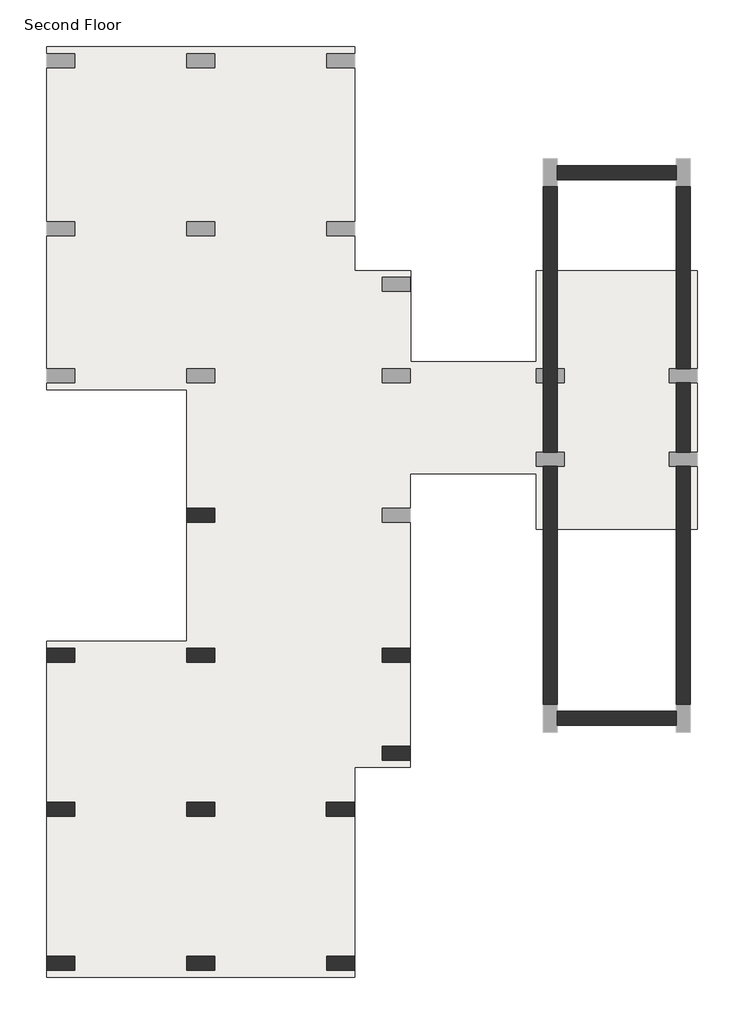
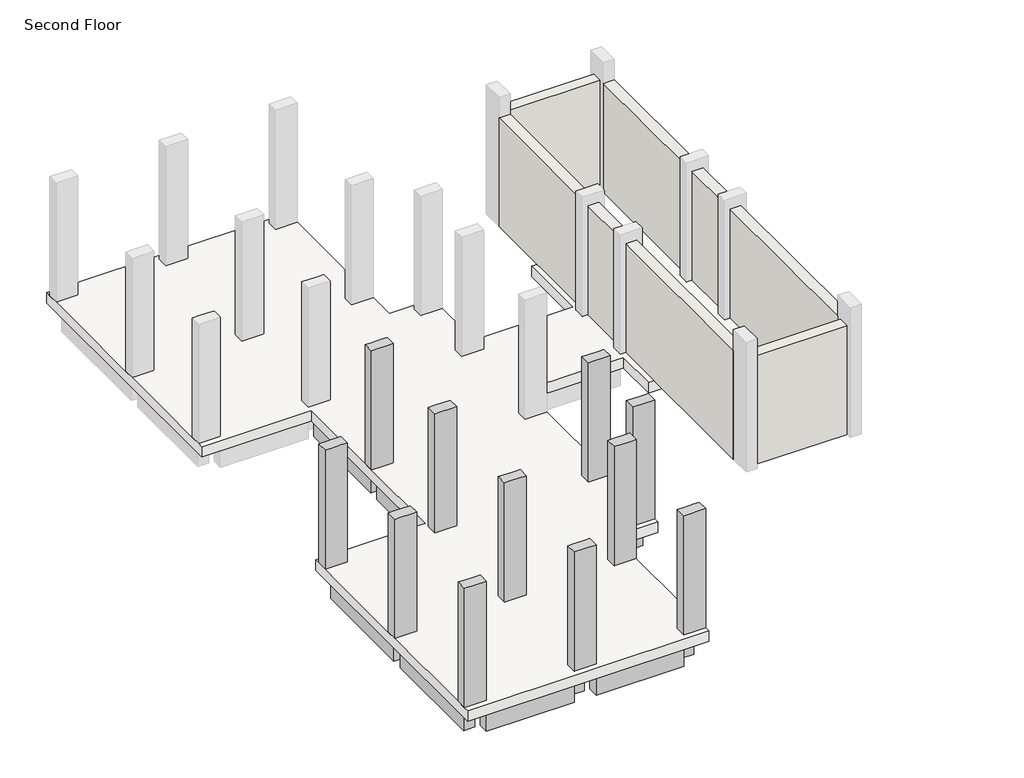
# One storey, part 1 of 2: 16 beams, 11 columns, 7 walls, 1 slab.
"""IFC4 building model written with IfcOpenShell, lengths in millimetres."""

import ifcopenshell
import ifcopenshell.guid

model = None  # the IFC model being written
_history = None  # IfcOwnerHistory: only IFC2X3 demands one
_inside = {}  # id of a spatial element -> (the spatial element, [elements in it])
_under = {}  # id of a project, library or spatial element -> (it, [spatial elements below it])
_declared = {}  # id of a project -> (the project, [libraries it declares])
_typed = {}  # id of a type object -> (the type object, [elements of that type])
_made_of = {}  # id of a material, layer set ... -> (it, [elements and type objects made of it])


def new_model(schema):
    """Start an empty IFC model of exactly this schema.

    Asked for "IFC4X3", IfcOpenShell would pick the latest addendum, in which some entities
    have other attributes; the version numbers below select the first issue.
    IFC2X3 requires an IfcOwnerHistory on every rooted entity: one is made here for all.
    """
    global model, _history
    if schema == "IFC4X3":
        model = ifcopenshell.file(schema_version=(4, 3, 0, 0))
    else:
        model = ifcopenshell.file(schema=schema)
    _inside.clear()
    _under.clear()
    _declared.clear()
    _typed.clear()
    _made_of.clear()
    _history = None
    if model.schema == "IFC2X3":
        org = make("IfcOrganization", Name="unknown")
        user = make(
            "IfcPersonAndOrganization",
            ThePerson=make("IfcPerson", FamilyName="unknown"),
            TheOrganization=org,
        )
        app = make(
            "IfcApplication",
            ApplicationDeveloper=org,
            Version="unknown",
            ApplicationFullName="unknown",
            ApplicationIdentifier="unknown",
        )
        _history = make(
            "IfcOwnerHistory",
            OwningUser=user,
            OwningApplication=app,
            ChangeAction="ADDED",
            CreationDate=0,
        )
    return model


def make(cls, **values):
    """One entity of the class cls with the attributes given. An attribute that is None is left unset."""
    return model.create_entity(
        cls, **{name: value for name, value in values.items() if value is not None}
    )


def rooted(cls, **values):
    """An entity with a GlobalId (a new one), such as an element, a storey or a relation."""
    return make(cls, GlobalId=ifcopenshell.guid.new(), OwnerHistory=_history, **values)


def si_unit(unit_type, name, prefix=None):
    """IfcSIUnit, for example si_unit("LENGTHUNIT", "METRE", prefix="MILLI")."""
    return make("IfcSIUnit", UnitType=unit_type, Prefix=prefix, Name=name)


def assignment(units):
    """IfcUnitAssignment: the units of a project."""
    return None if units is None else make("IfcUnitAssignment", Units=units)


def point(xyz):
    """IfcCartesianPoint."""
    return None if xyz is None else make("IfcCartesianPoint", Coordinates=xyz)


def direction(xyz):
    """IfcDirection."""
    return None if xyz is None else make("IfcDirection", DirectionRatios=xyz)


def frame(location, z_axis=None, x_axis=None):
    """IfcAxis2Placement3D, a coordinate frame: its origin and axes. An axis left out is left unset."""
    return make(
        "IfcAxis2Placement3D",
        Location=point(location),
        Axis=direction(z_axis),
        RefDirection=direction(x_axis),
    )


def origin():
    """The frame at (0, 0, 0) with its axes left unset."""
    return frame((0.0, 0.0, 0.0))


def place(relative_to, where):
    """IfcLocalPlacement: puts the frame where relative to a parent placement (None: the world)."""
    return make(
        "IfcLocalPlacement", PlacementRelTo=relative_to, RelativePlacement=where
    )


def context(
    kind, dimensions, precision=None, world=None, true_north=None, identifier=None
):
    """IfcGeometricRepresentationContext, for example the 3D "Model" context."""
    return make(
        "IfcGeometricRepresentationContext",
        ContextIdentifier=identifier,
        ContextType=kind,
        CoordinateSpaceDimension=dimensions,
        Precision=precision,
        WorldCoordinateSystem=world,
        TrueNorth=true_north,
    )


def project(units=None, contexts=None):
    """IfcProject with its units and contexts."""
    return rooted(
        "IfcProject",
        Name="project",
        RepresentationContexts=contexts,
        UnitsInContext=assignment(units),
    )


def spatial(cls, under=None, at=None, **own):
    """A site, building, storey or space (cls), placed at a placement, below another one or the project."""
    s = rooted(cls, ObjectPlacement=at, **own)
    if under is not None:
        _under.setdefault(under.id(), (under, []))[1].append(s)
    return s


def polyline(points):
    """IfcPolyline through the points."""
    return make("IfcPolyline", Points=[point(p) for p in points])


def outline(outer, holes=None, kind="AREA"):
    """IfcArbitraryClosedProfileDef: a profile drawn as a closed curve; with holes, ...WithVoids."""
    if holes is None:
        return make("IfcArbitraryClosedProfileDef", ProfileType=kind, OuterCurve=outer)
    return make(
        "IfcArbitraryProfileDefWithVoids",
        ProfileType=kind,
        OuterCurve=outer,
        InnerCurves=holes,
    )


def extrude(swept, where, along, depth):
    """IfcExtrudedAreaSolid: the profile swept, set in the frame where, extruded along a direction by depth."""
    return make(
        "IfcExtrudedAreaSolid",
        SweptArea=swept,
        Position=where,
        ExtrudedDirection=direction(along),
        Depth=depth,
    )


def faces_of(points, faces, orient=None, outer=None):
    """IfcFace entities. A face is a list of loops; a loop is a list of indices into points, from 0.

    orient and outer hold one flag for each loop. By default every Orientation is true, the
    first loop of a face is its IfcFaceOuterBound and the others are IfcFaceBound.
    """
    made = []
    for i, loops in enumerate(faces):
        bounds = []
        for j, loop in enumerate(loops):
            is_outer = j == 0 if outer is None else outer[i][j]
            bounds.append(
                make(
                    "IfcFaceOuterBound" if is_outer else "IfcFaceBound",
                    Bound=make("IfcPolyLoop", Polygon=[points[k] for k in loop]),
                    Orientation=True if orient is None else orient[i][j],
                )
            )
        made.append(make("IfcFace", Bounds=bounds))
    return made


def faceted_brep(points, faces, orient=None, outer=None, voids=None):
    """IfcFacetedBrep: a solid bounded by flat faces; with voids (closed shells), ...WithVoids."""
    shared = [point(p) for p in points]
    hull = make("IfcClosedShell", CfsFaces=faces_of(shared, faces, orient, outer))
    if voids is None:
        return make("IfcFacetedBrep", Outer=hull)
    return make(
        "IfcFacetedBrepWithVoids",
        Outer=hull,
        Voids=[
            make(cls, CfsFaces=faces_of(shared, fs, o, b)) for cls, fs, o, b in voids
        ],
    )


def shape(context_of_items, identifier, shape_type, items):
    """IfcShapeRepresentation: the items that make up one representation, for example the "Body"."""
    return make(
        "IfcShapeRepresentation",
        ContextOfItems=context_of_items,
        RepresentationIdentifier=identifier,
        RepresentationType=shape_type,
        Items=items,
    )


def made_of(thing, what):
    """Note that an element or type object is made of a material, layer set ...; save() writes the relation."""
    if what is not None:
        _made_of.setdefault(what.id(), (what, []))[1].append(thing)
    return thing


def element(
    cls,
    number,
    at=None,
    inside=None,
    cuts=None,
    type_object=None,
    material=None,
    context=None,
    identifier="Body",
    shape_type=None,
    held_by="IfcProductDefinitionShape",
    body=None,
    shapes=None,
    **own,
):
    """One element of the class cls, such as IfcWall. Its Tag is "e" and its number.

    at: its placement. inside: the storey or other place that contains it. cuts: it is an
    opening in that element (IfcRelVoidsElement). A single representation is given by context,
    identifier, shape_type and body (its items); several are given by shapes. held_by: the class
    of the entity that holds the representations. save() writes the other relations.
    """
    e = rooted(cls, Tag="e%d" % number, ObjectPlacement=at, **own)
    if body is not None:
        shapes = [shape(context, identifier, shape_type, body)]
    if shapes is not None:
        e.Representation = make(held_by, Representations=shapes)
    if inside is not None:
        _inside.setdefault(inside.id(), (inside, []))[1].append(e)
    if cuts is not None:
        rooted(
            "IfcRelVoidsElement", RelatingBuildingElement=cuts, RelatedOpeningElement=e
        )
    if type_object is not None:
        _typed.setdefault(type_object.id(), (type_object, []))[1].append(e)
    return made_of(e, material)


def aggregate(whole, parts):
    """IfcRelAggregates: a whole, such as a stair, and the parts it consists of."""
    return rooted("IfcRelAggregates", RelatingObject=whole, RelatedObjects=parts)


def save(model, path):
    """Write the relations noted so far, then the file.

    IfcRelAggregates (storeys below a building ...), IfcRelContainedInSpatialStructure (elements
    in a storey), IfcRelDefinesByType, IfcRelAssociatesMaterial and IfcRelDeclares: one each for
    every whole, place, type object, material and project.
    """
    for whole, parts in _under.values():
        aggregate(whole, parts)
    for where, things in _inside.values():
        rooted(
            "IfcRelContainedInSpatialStructure",
            RelatedElements=things,
            RelatingStructure=where,
        )
    for kind, things in _typed.values():
        rooted("IfcRelDefinesByType", RelatedObjects=things, RelatingType=kind)
    for what, things in _made_of.values():
        rooted("IfcRelAssociatesMaterial", RelatedObjects=things, RelatingMaterial=what)
    for by, libraries in _declared.values():
        rooted("IfcRelDeclares", RelatingContext=by, RelatedDefinitions=libraries)
    model.write(path)


model = new_model("IFC4")

# Units and contexts
model_context = context("Model", 3, world=origin())
ifc_project = project(units=[si_unit("LENGTHUNIT", "METRE", prefix="MILLI")], contexts=[model_context])

# Site, building, storey
site = spatial("IfcSite", under=ifc_project)
building = spatial("IfcBuilding", under=site)
storey = spatial("IfcBuildingStorey", under=building, Name="Second Floor", Elevation=3810.0)

# Beams
placement = place(None, origin())
element("IfcBeam", 1, ObjectType="Concrete-Rectangular Beam : 12 x 24", at=placement, inside=storey, context=model_context, shape_type="SweptSolid", body=[
    extrude(outline(polyline([(-10270.7073204, 16606.2572372), (-9965.9073204, 16606.2572372), (-9965.9073204, 13863.0572372), (-10270.7073204, 13863.0572372), (-10270.7073204, 16606.2572372)])), frame((0.0, 0.0, 2895.6), z_axis=(0.0, 0.0, 1.0), x_axis=(1.0, 0.0, 0.0)), (0.0, 0.0, 1.0), 609.6),
])
element("IfcBeam", 2, ObjectType="Concrete-Rectangular Beam : 12 x 24", at=placement, inside=storey, context=model_context, shape_type="SweptSolid", body=[
    extrude(outline(polyline([(-10270.7073204, 13558.2572372), (-9965.9073204, 13558.2572372), (-9965.9073204, 10815.0572372), (-10270.7073204, 10815.0572372), (-10270.7073204, 13558.2572372)])), frame((0.0, 0.0, 2895.6), z_axis=(0.0, 0.0, 1.0), x_axis=(1.0, 0.0, 0.0)), (0.0, 0.0, 1.0), 609.6),
])
element("IfcBeam", 3, ObjectType="Concrete-Rectangular Beam : 12 x 24", at=placement, inside=storey, context=model_context, shape_type="SweptSolid", body=[
    extrude(outline(polyline([(-9813.5073204, 10510.2572372), (-9813.5073204, 10815.0572372), (-6156.6500241, 10815.0572372), (-6156.6500241, 10510.2572372), (-9813.5073204, 10510.2572372)])), frame((0.0, 0.0, 2895.6), z_axis=(0.0, 0.0, 1.0), x_axis=(1.0, 0.0, 0.0)), (0.0, 0.0, 1.0), 609.6),
])
element("IfcBeam", 4, ObjectType="Concrete-Rectangular Beam : 12 x 24", at=placement, inside=storey, context=model_context, shape_type="SweptSolid", body=[
    extrude(outline(polyline([(-12861.5073204, 10510.2572372), (-12861.5073204, 10815.0572372), (-10423.1073204, 10815.0572372), (-10423.1073204, 10510.2572372), (-12861.5073204, 10510.2572372)])), frame((0.0, 0.0, 2895.6), z_axis=(0.0, 0.0, 1.0), x_axis=(1.0, 0.0, 0.0)), (0.0, 0.0, 1.0), 609.6),
])
element("IfcBeam", 5, ObjectType="Concrete-Rectangular Beam : 12 x 24", at=placement, inside=storey, context=model_context, shape_type="SweptSolid", body=[
    extrude(outline(polyline([(-13318.7073204, 10510.2572372), (-13013.9073204, 10510.2572372), (-13013.9073204, 7462.2572372), (-13318.7073204, 7462.2572372), (-13318.7073204, 10510.2572372)])), frame((0.0, 0.0, 2895.6), z_axis=(0.0, 0.0, 1.0), x_axis=(1.0, 0.0, 0.0)), (0.0, 0.0, 1.0), 609.6),
])
element("IfcBeam", 6, ObjectType="Concrete-Rectangular Beam : 12 x 24", at=placement, inside=storey, context=model_context, shape_type="SweptSolid", body=[
    extrude(outline(polyline([(-10270.7073204, 10510.2572372), (-9965.9073204, 10510.2572372), (-9965.9073204, 7462.2572372), (-10270.7073204, 7462.2572372), (-10270.7073204, 10510.2572372)])), frame((0.0, 0.0, 2895.6), z_axis=(0.0, 0.0, 1.0), x_axis=(1.0, 0.0, 0.0)), (0.0, 0.0, 1.0), 609.6),
])
element("IfcBeam", 7, ObjectType="Concrete-Rectangular Beam : 12 x 24", at=placement, inside=storey, context=model_context, shape_type="SweptSolid", body=[
    extrude(outline(polyline([(-6004.2500241, 10510.2572372), (-5699.4500241, 10510.2572372), (-5699.4500241, 8681.4572372), (-6004.2500241, 8681.4572372), (-6004.2500241, 10510.2572372)])), frame((0.0, 0.0, 2895.6), z_axis=(0.0, 0.0, 1.0), x_axis=(1.0, 0.0, 0.0)), (0.0, 0.0, 1.0), 609.6),
])
element("IfcBeam", 8, ObjectType="Concrete-Rectangular Beam : 12 x 24", at=placement, inside=storey, context=model_context, shape_type="Brep", body=[
    faceted_brep([(-7223.4500241, 8681.4572372, 3505.2), (-7223.4500241, 8376.6572372, 3505.2), (-6918.6500241, 8376.6572372, 3505.2), (-6156.6500241, 8376.6572372, 3505.2), (-6156.6500241, 8681.4572372, 3505.2), (-7223.4500241, 8681.4572372, 2895.6), (-6156.6500241, 8681.4572372, 2895.6), (-7223.4500241, 8376.6572372, 2895.6), (-6156.6500241, 8376.6572372, 2895.6), (-6918.6500241, 8376.6572372, 2895.6)], [[[0, 1, 2, 3, 4]], [[5, 0, 4, 6]], [[7, 5, 6, 8, 9]], [[1, 7, 9, 8, 3, 2]], [[4, 3, 8, 6]], [[1, 0, 5, 7]]]),
])
element("IfcBeam", 9, ObjectType="Concrete-Rectangular Beam : 12 x 24", at=placement, inside=storey, context=model_context, shape_type="SweptSolid", body=[
    extrude(outline(polyline([(-7223.4500241, 8376.6572372), (-6918.6500241, 8376.6572372), (-6918.6500241, 7462.2572372), (-7223.4500241, 7462.2572372), (-7223.4500241, 8376.6572372)])), frame((0.0, 0.0, 2895.6), z_axis=(0.0, 0.0, 1.0), x_axis=(1.0, 0.0, 0.0)), (0.0, 0.0, 1.0), 609.6),
])
element("IfcBeam", 10, ObjectType="Concrete-Rectangular Beam : 12 x 24", at=placement, inside=storey, context=model_context, shape_type="SweptSolid", body=[
    extrude(outline(polyline([(-7375.8500241, 7462.2572372), (-7375.8500241, 7157.4572372), (-9813.5073204, 7157.4572372), (-9813.5073204, 7462.2572372), (-7375.8500241, 7462.2572372)])), frame((0.0, 0.0, 2895.6), z_axis=(0.0, 0.0, 1.0), x_axis=(1.0, 0.0, 0.0)), (0.0, 0.0, 1.0), 609.6),
])
element("IfcBeam", 11, ObjectType="Concrete-Rectangular Beam : 12 x 24", at=placement, inside=storey, context=model_context, shape_type="SweptSolid", body=[
    extrude(outline(polyline([(-10423.1073204, 7462.2572372), (-10423.1073204, 7157.4572372), (-12861.5073204, 7157.4572372), (-12861.5073204, 7462.2572372), (-10423.1073204, 7462.2572372)])), frame((0.0, 0.0, 2895.6), z_axis=(0.0, 0.0, 1.0), x_axis=(1.0, 0.0, 0.0)), (0.0, 0.0, 1.0), 609.6),
])
element("IfcBeam", 12, ObjectType="Concrete-Rectangular Beam : 12 x 24", at=placement, inside=storey, context=model_context, shape_type="SweptSolid", body=[
    extrude(outline(polyline([(-13318.7073204, 7157.4572372), (-13013.9073204, 7157.4572372), (-13013.9073204, 4109.4572372), (-13318.7073204, 4109.4572372), (-13318.7073204, 7157.4572372)])), frame((0.0, 0.0, 2895.6), z_axis=(0.0, 0.0, 1.0), x_axis=(1.0, 0.0, 0.0)), (0.0, 0.0, 1.0), 609.6),
])
element("IfcBeam", 13, ObjectType="Concrete-Rectangular Beam : 12 x 24", at=placement, inside=storey, context=model_context, shape_type="SweptSolid", body=[
    extrude(outline(polyline([(-10270.7073204, 7157.4572372), (-9965.9073204, 7157.4572372), (-9965.9073204, 4109.4572372), (-10270.7073204, 4109.4572372), (-10270.7073204, 7157.4572372)])), frame((0.0, 0.0, 2895.6), z_axis=(0.0, 0.0, 1.0), x_axis=(1.0, 0.0, 0.0)), (0.0, 0.0, 1.0), 609.6),
])
element("IfcBeam", 14, ObjectType="Concrete-Rectangular Beam : 12 x 24", at=placement, inside=storey, context=model_context, shape_type="SweptSolid", body=[
    extrude(outline(polyline([(-7223.4500241, 7157.4572372), (-6918.6500241, 7157.4572372), (-6918.6500241, 4109.4572372), (-7223.4500241, 4109.4572372), (-7223.4500241, 7157.4572372)])), frame((0.0, 0.0, 2895.6), z_axis=(0.0, 0.0, 1.0), x_axis=(1.0, 0.0, 0.0)), (0.0, 0.0, 1.0), 609.6),
])
element("IfcBeam", 15, ObjectType="Concrete-Rectangular Beam : 12 x 24", at=placement, inside=storey, context=model_context, shape_type="SweptSolid", body=[
    extrude(outline(polyline([(-9813.5073204, 3804.6572372), (-9813.5073204, 4109.4572372), (-7375.1073204, 4109.4572372), (-7375.1073204, 3804.6572372), (-9813.5073204, 3804.6572372)])), frame((0.0, 0.0, 2895.6), z_axis=(0.0, 0.0, 1.0), x_axis=(1.0, 0.0, 0.0)), (0.0, 0.0, 1.0), 609.6),
])
element("IfcBeam", 16, ObjectType="Concrete-Rectangular Beam : 12 x 24", at=placement, inside=storey, context=model_context, shape_type="SweptSolid", body=[
    extrude(outline(polyline([(-12861.5073204, 3804.6572372), (-12861.5073204, 4109.4572372), (-10423.1073204, 4109.4572372), (-10423.1073204, 3804.6572372), (-12861.5073204, 3804.6572372)])), frame((0.0, 0.0, 2895.6), z_axis=(0.0, 0.0, 1.0), x_axis=(1.0, 0.0, 0.0)), (0.0, 0.0, 1.0), 609.6),
])

# Columns
element("IfcColumn", 17, ObjectType="Concrete-Rectangular-Column : 12 x 24", at=placement, inside=storey, context=model_context, shape_type="Brep", body=[
    faceted_brep([(-10423.1073204, 13863.0572372, 3810.0), (-9813.5073204, 13863.0572372, 3810.0), (-9813.5073204, 13558.2572372, 3810.0), (-10423.1073204, 13558.2572372, 3810.0), (-10423.1073204, 13863.0572372, 7315.2), (-10270.7073204, 13863.0572372, 7315.2), (-9965.9073204, 13863.0572372, 7315.2), (-9813.5073204, 13863.0572372, 7315.2), (-9813.5073204, 13863.0572372, 6705.6), (-9813.5073204, 13558.2572372, 7315.2), (-9813.5073204, 13558.2572372, 6705.6), (-9965.9073204, 13558.2572372, 7315.2), (-10270.7073204, 13558.2572372, 7315.2), (-10423.1073204, 13558.2572372, 7315.2)], [[[0, 1, 2, 3]], [[4, 5, 6, 7, 8, 1, 0]], [[7, 9, 10, 2, 1, 8]], [[9, 11, 12, 13, 3, 2, 10]], [[13, 4, 0, 3]], [[4, 13, 12, 11, 9, 7, 6, 5]]]),
])
element("IfcColumn", 18, ObjectType="Concrete-Rectangular-Column : 12 x 24", at=placement, inside=storey, context=model_context, shape_type="Brep", body=[
    faceted_brep([(-13471.1073204, 10815.0572372, 3810.0), (-12861.5073204, 10815.0572372, 3810.0), (-12861.5073204, 10510.2572372, 3810.0), (-13471.1073204, 10510.2572372, 3810.0), (-13471.1073204, 10815.0572372, 7315.2), (-12861.5073204, 10815.0572372, 7315.2), (-12861.5073204, 10815.0572372, 6705.6), (-12861.5073204, 10510.2572372, 7315.2), (-12861.5073204, 10510.2572372, 6705.6), (-13013.9073204, 10510.2572372, 7315.2), (-13318.7073204, 10510.2572372, 7315.2), (-13471.1073204, 10510.2572372, 7315.2)], [[[0, 1, 2, 3]], [[4, 5, 6, 1, 0]], [[5, 7, 8, 2, 1, 6]], [[7, 9, 10, 11, 3, 2, 8]], [[11, 4, 0, 3]], [[4, 11, 10, 9, 7, 5]]]),
])
element("IfcColumn", 19, ObjectType="Concrete-Rectangular-Column : 12 x 24", at=placement, inside=storey, context=model_context, shape_type="Brep", body=[
    faceted_brep([(-10423.1073204, 10815.0572372, 3810.0), (-9813.5073204, 10815.0572372, 3810.0), (-9813.5073204, 10510.2572372, 3810.0), (-10423.1073204, 10510.2572372, 3810.0), (-10423.1073204, 10815.0572372, 7315.2), (-10270.7073204, 10815.0572372, 7315.2), (-9965.9073204, 10815.0572372, 7315.2), (-9813.5073204, 10815.0572372, 7315.2), (-9813.5073204, 10815.0572372, 6705.6), (-10423.1073204, 10815.0572372, 6705.6), (-9813.5073204, 10510.2572372, 7315.2), (-9813.5073204, 10510.2572372, 6705.6), (-9965.9073204, 10510.2572372, 7315.2), (-10270.7073204, 10510.2572372, 7315.2), (-10423.1073204, 10510.2572372, 7315.2), (-10423.1073204, 10510.2572372, 6705.6)], [[[0, 1, 2, 3]], [[4, 5, 6, 7, 8, 1, 0, 9]], [[7, 10, 11, 2, 1, 8]], [[10, 12, 13, 14, 15, 3, 2, 11]], [[14, 4, 9, 0, 3, 15]], [[4, 14, 13, 12, 10, 7, 6, 5]]]),
])
element("IfcColumn", 20, ObjectType="Concrete-Rectangular-Column : 12 x 24", at=placement, inside=storey, context=model_context, shape_type="Brep", body=[
    faceted_brep([(-6156.6500241, 10815.0572372, 3810.0), (-5547.0500241, 10815.0572372, 3810.0), (-5547.0500241, 10510.2572372, 3810.0), (-6156.6500241, 10510.2572372, 3810.0), (-6156.6500241, 10815.0572372, 7315.2), (-6004.2500241, 10815.0572372, 7315.2), (-5699.4500241, 10815.0572372, 7315.2), (-5547.0500241, 10815.0572372, 7315.2), (-6156.6500241, 10815.0572372, 6705.6), (-5547.0500241, 10510.2572372, 7315.2), (-5699.4500241, 10510.2572372, 7315.2), (-6004.2500241, 10510.2572372, 7315.2), (-6156.6500241, 10510.2572372, 7315.2), (-6156.6500241, 10510.2572372, 6705.6)], [[[0, 1, 2, 3]], [[4, 5, 6, 7, 1, 0, 8]], [[7, 9, 2, 1]], [[9, 10, 11, 12, 13, 3, 2]], [[12, 4, 8, 0, 3, 13]], [[4, 12, 11, 10, 9, 7, 6, 5]]]),
])
element("IfcColumn", 21, ObjectType="Concrete-Rectangular-Column : 12 x 24", at=placement, inside=storey, context=model_context, shape_type="Brep", body=[
    faceted_brep([(-6156.6500241, 8681.4572372, 3810.0), (-5547.0500241, 8681.4572372, 3810.0), (-5547.0500241, 8376.6572372, 3810.0), (-6156.6500241, 8376.6572372, 3810.0), (-6156.6500241, 8681.4572372, 7315.2), (-6004.2500241, 8681.4572372, 7315.2), (-5699.4500241, 8681.4572372, 7315.2), (-5547.0500241, 8681.4572372, 7315.2), (-6156.6500241, 8681.4572372, 6705.6), (-5547.0500241, 8376.6572372, 7315.2), (-6156.6500241, 8376.6572372, 7315.2), (-6156.6500241, 8376.6572372, 6705.6)], [[[0, 1, 2, 3]], [[4, 5, 6, 7, 1, 0, 8]], [[7, 9, 2, 1]], [[9, 10, 11, 3, 2]], [[10, 4, 8, 0, 3, 11]], [[4, 10, 9, 7, 6, 5]]]),
])
element("IfcColumn", 22, ObjectType="Concrete-Rectangular-Column : 12 x 24", at=placement, inside=storey, context=model_context, shape_type="Brep", body=[
    faceted_brep([(-7375.8500241, 7462.2572372, 3810.0), (-6766.2500241, 7462.2572372, 3810.0), (-6766.2500241, 7157.4572372, 3810.0), (-7375.8500241, 7157.4572372, 3810.0), (-7375.8500241, 7462.2572372, 7315.2), (-7223.4500241, 7462.2572372, 7315.2), (-6918.6500241, 7462.2572372, 7315.2), (-6766.2500241, 7462.2572372, 7315.2), (-7375.8500241, 7462.2572372, 6705.6), (-6766.2500241, 7157.4572372, 7315.2), (-6918.6500241, 7157.4572372, 7315.2), (-7223.4500241, 7157.4572372, 7315.2), (-7375.8500241, 7157.4572372, 7315.2), (-7375.8500241, 7157.4572372, 6705.6)], [[[0, 1, 2, 3]], [[4, 5, 6, 7, 1, 0, 8]], [[7, 9, 2, 1]], [[9, 10, 11, 12, 13, 3, 2]], [[12, 4, 8, 0, 3, 13]], [[4, 12, 11, 10, 9, 7, 6, 5]]]),
])
element("IfcColumn", 23, ObjectType="Concrete-Rectangular-Column : 12 x 24", at=placement, inside=storey, context=model_context, shape_type="Brep", body=[
    faceted_brep([(-10423.1073204, 7462.2572372, 3810.0), (-9813.5073204, 7462.2572372, 3810.0), (-9813.5073204, 7157.4572372, 3810.0), (-10423.1073204, 7157.4572372, 3810.0), (-10423.1073204, 7462.2572372, 7315.2), (-10270.7073204, 7462.2572372, 7315.2), (-9965.9073204, 7462.2572372, 7315.2), (-9813.5073204, 7462.2572372, 7315.2), (-9813.5073204, 7462.2572372, 6705.6), (-10423.1073204, 7462.2572372, 6705.6), (-9813.5073204, 7157.4572372, 7315.2), (-9813.5073204, 7157.4572372, 6705.6), (-9965.9073204, 7157.4572372, 7315.2), (-10270.7073204, 7157.4572372, 7315.2), (-10423.1073204, 7157.4572372, 7315.2), (-10423.1073204, 7157.4572372, 6705.6)], [[[0, 1, 2, 3]], [[4, 5, 6, 7, 8, 1, 0, 9]], [[7, 10, 11, 2, 1, 8]], [[10, 12, 13, 14, 15, 3, 2, 11]], [[14, 4, 9, 0, 3, 15]], [[4, 14, 13, 12, 10, 7, 6, 5]]]),
])
element("IfcColumn", 24, ObjectType="Concrete-Rectangular-Column : 12 x 24", at=placement, inside=storey, context=model_context, shape_type="Brep", body=[
    faceted_brep([(-13471.1073204, 7462.2572372, 3810.0), (-12861.5073204, 7462.2572372, 3810.0), (-12861.5073204, 7157.4572372, 3810.0), (-13471.1073204, 7157.4572372, 3810.0), (-13471.1073204, 7462.2572372, 7315.2), (-13318.7073204, 7462.2572372, 7315.2), (-13013.9073204, 7462.2572372, 7315.2), (-12861.5073204, 7462.2572372, 7315.2), (-12861.5073204, 7462.2572372, 6705.6), (-12861.5073204, 7157.4572372, 7315.2), (-12861.5073204, 7157.4572372, 6705.6), (-13013.9073204, 7157.4572372, 7315.2), (-13318.7073204, 7157.4572372, 7315.2), (-13471.1073204, 7157.4572372, 7315.2)], [[[0, 1, 2, 3]], [[4, 5, 6, 7, 8, 1, 0]], [[7, 9, 10, 2, 1, 8]], [[9, 11, 12, 13, 3, 2, 10]], [[13, 4, 0, 3]], [[4, 13, 12, 11, 9, 7, 6, 5]]]),
])
element("IfcColumn", 25, ObjectType="Concrete-Rectangular-Column : 12 x 24", at=placement, inside=storey, context=model_context, shape_type="Brep", body=[
    faceted_brep([(-13471.1073204, 4109.4572372, 3810.0), (-12861.5073204, 4109.4572372, 3810.0), (-12861.5073204, 3804.6572372, 3810.0), (-13471.1073204, 3804.6572372, 3810.0), (-13471.1073204, 4109.4572372, 7315.2), (-13318.7073204, 4109.4572372, 7315.2), (-13013.9073204, 4109.4572372, 7315.2), (-12861.5073204, 4109.4572372, 7315.2), (-12861.5073204, 4109.4572372, 6705.6), (-12861.5073204, 3804.6572372, 7315.2), (-12861.5073204, 3804.6572372, 6705.6), (-13471.1073204, 3804.6572372, 7315.2)], [[[0, 1, 2, 3]], [[4, 5, 6, 7, 8, 1, 0]], [[7, 9, 10, 2, 1, 8]], [[9, 11, 3, 2, 10]], [[11, 4, 0, 3]], [[4, 11, 9, 7, 6, 5]]]),
])
element("IfcColumn", 26, ObjectType="Concrete-Rectangular-Column : 12 x 24", at=placement, inside=storey, context=model_context, shape_type="Brep", body=[
    faceted_brep([(-10423.1073204, 4109.4572372, 3810.0), (-9813.5073204, 4109.4572372, 3810.0), (-9813.5073204, 3804.6572372, 3810.0), (-10423.1073204, 3804.6572372, 3810.0), (-10423.1073204, 4109.4572372, 7315.2), (-10270.7073204, 4109.4572372, 7315.2), (-9965.9073204, 4109.4572372, 7315.2), (-9813.5073204, 4109.4572372, 7315.2), (-9813.5073204, 4109.4572372, 6705.6), (-10423.1073204, 4109.4572372, 6705.6), (-9813.5073204, 3804.6572372, 7315.2), (-9813.5073204, 3804.6572372, 6705.6), (-10423.1073204, 3804.6572372, 7315.2), (-10423.1073204, 3804.6572372, 6705.6)], [[[0, 1, 2, 3]], [[4, 5, 6, 7, 8, 1, 0, 9]], [[7, 10, 11, 2, 1, 8]], [[10, 12, 13, 3, 2, 11]], [[12, 4, 9, 0, 3, 13]], [[4, 12, 10, 7, 6, 5]]]),
])
element("IfcColumn", 27, ObjectType="Concrete-Rectangular-Column : 12 x 24", at=placement, inside=storey, context=model_context, shape_type="Brep", body=[
    faceted_brep([(-7375.1073204, 4109.4572372, 3810.0), (-6765.5073204, 4109.4572372, 3810.0), (-6765.5073204, 3804.6572372, 3810.0), (-7375.1073204, 3804.6572372, 3810.0), (-7375.1073204, 4109.4572372, 7315.2), (-7223.4500241, 4109.4572372, 7315.2), (-6918.6500241, 4109.4572372, 7315.2), (-6765.5073204, 4109.4572372, 7315.2), (-7375.1073204, 4109.4572372, 6705.6), (-6765.5073204, 3804.6572372, 7315.2), (-7375.1073204, 3804.6572372, 7315.2), (-7375.1073204, 3804.6572372, 6705.6)], [[[0, 1, 2, 3]], [[4, 5, 6, 7, 1, 0, 8]], [[7, 9, 2, 1]], [[9, 10, 11, 3, 2]], [[10, 4, 8, 0, 3, 11]], [[4, 10, 9, 7, 6, 5]]]),
])

# Slab
element("IfcSlab", 28, ObjectType="Generic - 12\"", at=placement, inside=storey, context=model_context, shape_type="Brep", body=[
    faceted_brep([(-6765.5073204, 23921.4572372, 3505.2), (-6765.5073204, 23769.0572372, 3505.2), (-6765.5073204, 23464.2572372, 3505.2), (-6765.5073204, 20111.4572372, 3505.2), (-6765.5073204, 19806.6572372, 3505.2), (-6765.5073204, 19044.6572372, 3505.2), (-5546.3073204, 19044.6572372, 3505.2), (-5546.3073204, 17063.4572372, 3505.2), (-2803.8500241, 17063.4572372, 3505.2), (-2803.8500241, 19044.6572372, 3505.2), (-2651.4500241, 19044.6572372, 3505.2), (-2346.6500241, 19044.6572372, 3505.2), (699.5860546, 19044.6572372, 3505.2), (699.5860546, 16911.0572372, 3505.2), (699.5860546, 16606.2572372, 3505.2), (699.5860546, 15082.2572372, 3505.2), (699.5860546, 14777.4572372, 3505.2), (699.5860546, 13405.8572372, 3505.2), (547.1860546, 13405.8572372, 3505.2), (242.3860546, 13405.8572372, 3505.2), (-2803.8500241, 13405.8572372, 3505.2), (-2803.8500241, 14625.0572372, 3505.2), (-5547.0500241, 14625.0572372, 3505.2), (-5547.0500241, 13863.0572372, 3505.2), (-5547.0500241, 13558.2572372, 3505.2), (-5547.0500241, 10815.0572372, 3505.2), (-5547.0500241, 10510.2572372, 3505.2), (-5547.0500241, 8681.4572372, 3505.2), (-5547.0500241, 8376.6572372, 3505.2), (-5547.0500241, 8224.2572372, 3505.2), (-6765.5073204, 8224.2572372, 3505.2), (-6765.5073204, 4109.4572372, 3505.2), (-6765.5073204, 3804.6572372, 3505.2), (-6765.5073204, 3652.2572372, 3505.2), (-13471.1073204, 3652.2572372, 3505.2), (-13471.1073204, 3804.6572372, 3505.2), (-13471.1073204, 4109.4572372, 3505.2), (-13471.1073204, 7157.4572372, 3505.2), (-13471.1073204, 7462.2572372, 3505.2), (-13471.1073204, 10510.2572372, 3505.2), (-13471.1073204, 10815.0572372, 3505.2), (-13471.1073204, 10967.4572372, 3505.2), (-10423.1073204, 10967.4572372, 3505.2), (-10423.1073204, 13558.2572372, 3505.2), (-10423.1073204, 13863.0572372, 3505.2), (-10423.1073204, 16453.8572372, 3505.2), (-13471.1073204, 16453.8572372, 3505.2), (-13471.1073204, 16606.2572372, 3505.2), (-13471.1073204, 16911.0572372, 3505.2), (-13471.1073204, 19806.6572372, 3505.2), (-13471.1073204, 20111.4572372, 3505.2), (-13471.1073204, 23464.2572372, 3505.2), (-13471.1073204, 23769.0572372, 3505.2), (-13471.1073204, 23921.4572372, 3505.2), (-6765.5073204, 23921.4572372, 3810.0), (-13471.1073204, 23921.4572372, 3810.0), (-13471.1073204, 23769.0572372, 3810.0), (-13471.1073204, 23464.2572372, 3810.0), (-13471.1073204, 20111.4572372, 3810.0), (-13471.1073204, 19806.6572372, 3810.0), (-13471.1073204, 16911.0572372, 3810.0), (-13471.1073204, 16606.2572372, 3810.0), (-13471.1073204, 16453.8572372, 3810.0), (-10423.1073204, 16453.8572372, 3810.0), (-10423.1073204, 13863.0572372, 3810.0), (-10423.1073204, 13558.2572372, 3810.0), (-10423.1073204, 10967.4572372, 3810.0), (-13471.1073204, 10967.4572372, 3810.0), (-13471.1073204, 10815.0572372, 3810.0), (-13471.1073204, 10510.2572372, 3810.0), (-13471.1073204, 7462.2572372, 3810.0), (-13471.1073204, 7157.4572372, 3810.0), (-13471.1073204, 4109.4572372, 3810.0), (-13471.1073204, 3804.6572372, 3810.0), (-13471.1073204, 3652.2572372, 3810.0), (-6765.5073204, 3652.2572372, 3810.0), (-6765.5073204, 3804.6572372, 3810.0), (-6765.5073204, 4109.4572372, 3810.0), (-6765.5073204, 8224.2572372, 3810.0), (-5547.0500241, 8224.2572372, 3810.0), (-5547.0500241, 8376.6572372, 3810.0), (-5547.0500241, 8681.4572372, 3810.0), (-5547.0500241, 10510.2572372, 3810.0), (-5547.0500241, 10815.0572372, 3810.0), (-5547.0500241, 13558.2572372, 3810.0), (-5547.0500241, 13863.0572372, 3810.0), (-5547.0500241, 14625.0572372, 3810.0), (-2803.8500241, 14625.0572372, 3810.0), (-2803.8500241, 13405.8572372, 3810.0), (242.3860546, 13405.8572372, 3810.0), (547.1860546, 13405.8572372, 3810.0), (699.5860546, 13405.8572372, 3810.0), (699.5860546, 14777.4572372, 3810.0), (699.5860546, 15082.2572372, 3810.0), (699.5860546, 16606.2572372, 3810.0), (699.5860546, 16911.0572372, 3810.0), (699.5860546, 19044.6572372, 3810.0), (-2346.6500241, 19044.6572372, 3810.0), (-2651.4500241, 19044.6572372, 3810.0), (-2803.8500241, 19044.6572372, 3810.0), (-2803.8500241, 17063.4572372, 3810.0), (-5546.3073204, 17063.4572372, 3810.0), (-5546.3073204, 19044.6572372, 3810.0), (-6765.5073204, 19044.6572372, 3810.0), (-6765.5073204, 19806.6572372, 3810.0), (-6765.5073204, 20111.4572372, 3810.0), (-6765.5073204, 23464.2572372, 3810.0), (-6765.5073204, 23769.0572372, 3810.0)], [[[0, 1, 2, 3, 4, 5, 6, 7, 8, 9, 10, 11, 12, 13, 14, 15, 16, 17, 18, 19, 20, 21, 22, 23, 24, 25, 26, 27, 28, 29, 30, 31, 32, 33, 34, 35, 36, 37, 38, 39, 40, 41, 42, 43, 44, 45, 46, 47, 48, 49, 50, 51, 52, 53]], [[54, 55, 56, 57, 58, 59, 60, 61, 62, 63, 64, 65, 66, 67, 68, 69, 70, 71, 72, 73, 74, 75, 76, 77, 78, 79, 80, 81, 82, 83, 84, 85, 86, 87, 88, 89, 90, 91, 92, 93, 94, 95, 96, 97, 98, 99, 100, 101, 102, 103, 104, 105, 106, 107]], [[5, 4, 3, 2, 1, 0, 54, 107, 106, 105, 104, 103]], [[6, 5, 103, 102]], [[7, 6, 102, 101]], [[8, 7, 101, 100]], [[9, 8, 100, 99]], [[12, 11, 10, 9, 99, 98, 97, 96]], [[17, 16, 15, 14, 13, 12, 96, 95, 94, 93, 92, 91]], [[20, 19, 18, 17, 91, 90, 89, 88]], [[21, 20, 88, 87]], [[22, 21, 87, 86]], [[29, 28, 27, 26, 25, 24, 23, 22, 86, 85, 84, 83, 82, 81, 80, 79]], [[30, 29, 79, 78]], [[33, 32, 31, 30, 78, 77, 76, 75]], [[34, 33, 75, 74]], [[41, 40, 39, 38, 37, 36, 35, 34, 74, 73, 72, 71, 70, 69, 68, 67]], [[42, 41, 67, 66]], [[45, 44, 43, 42, 66, 65, 64, 63]], [[46, 45, 63, 62]], [[53, 52, 51, 50, 49, 48, 47, 46, 62, 61, 60, 59, 58, 57, 56, 55]], [[0, 53, 55, 54]]]),
])

# Walls
element("IfcWall", 29, ObjectType="Core-Shaft - 12\" Concrete", at=placement, inside=storey, context=model_context, shape_type="SweptSolid", body=[
    extrude(outline(polyline([(242.3860546, 21025.8572372), (-2346.6500241, 21025.8572372), (-2346.6500241, 21330.6572372), (242.3860546, 21330.6572372), (242.3860546, 21025.8572372)])), frame((0.0, 0.0, 3810.0), z_axis=(0.0, 0.0, 1.0), x_axis=(1.0, 0.0, 0.0)), (0.0, 0.0, 1.0), 3200.4),
])
element("IfcWall", 30, ObjectType="Core-Shaft - 12\" Concrete", at=placement, inside=storey, context=model_context, shape_type="SweptSolid", body=[
    extrude(outline(polyline([(242.3860546, 16911.0572372), (242.3860546, 20873.4572372), (547.1860546, 20873.4572372), (547.1860546, 16911.0572372), (242.3860546, 16911.0572372)])), frame((0.0, 0.0, 3810.0), z_axis=(0.0, 0.0, 1.0), x_axis=(1.0, 0.0, 0.0)), (0.0, 0.0, 1.0), 3200.4),
])
element("IfcWall", 31, ObjectType="Core-Shaft - 12\" Concrete", at=placement, inside=storey, context=model_context, shape_type="SweptSolid", body=[
    extrude(outline(polyline([(242.3860546, 15082.2572372), (242.3860546, 16606.2572372), (547.1860546, 16606.2572372), (547.1860546, 15082.2572372), (242.3860546, 15082.2572372)])), frame((0.0, 0.0, 3810.0), z_axis=(0.0, 0.0, 1.0), x_axis=(1.0, 0.0, 0.0)), (0.0, 0.0, 1.0), 3200.4),
])
element("IfcWall", 32, ObjectType="Core-Shaft - 12\" Concrete", at=placement, inside=storey, context=model_context, shape_type="SweptSolid", body=[
    extrude(outline(polyline([(242.3860546, 9595.8572372), (242.3860546, 14777.4572372), (547.1860546, 14777.4572372), (547.1860546, 9595.8572372), (242.3860546, 9595.8572372)])), frame((0.0, 0.0, 3810.0), z_axis=(0.0, 0.0, 1.0), x_axis=(1.0, 0.0, 0.0)), (0.0, 0.0, 1.0), 3200.4),
])
element("IfcWall", 33, ObjectType="Core-Shaft - 12\" Concrete", at=placement, inside=storey, context=model_context, shape_type="SweptSolid", body=[
    extrude(outline(polyline([(-2346.6500241, 9443.4572372), (242.3860546, 9443.4572372), (242.3860546, 9138.6572372), (-2346.6500241, 9138.6572372), (-2346.6500241, 9443.4572372)])), frame((0.0, 0.0, 3810.0), z_axis=(0.0, 0.0, 1.0), x_axis=(1.0, 0.0, 0.0)), (0.0, 0.0, 1.0), 3200.4),
])
element("IfcWall", 34, ObjectType="Core-Shaft - 12\" Concrete", at=placement, inside=storey, context=model_context, shape_type="SweptSolid", body=[
    extrude(outline(polyline([(-2346.6500241, 14777.4572372), (-2346.6500241, 9595.8572372), (-2651.4500241, 9595.8572372), (-2651.4500241, 14777.4572372), (-2346.6500241, 14777.4572372)])), frame((0.0, 0.0, 3810.0), z_axis=(0.0, 0.0, 1.0), x_axis=(1.0, 0.0, 0.0)), (0.0, 0.0, 1.0), 3200.4),
])
element("IfcWall", 35, ObjectType="Core-Shaft - 12\" Concrete", at=placement, inside=storey, context=model_context, shape_type="Brep", body=[
    faceted_brep([(-2346.6500241, 15082.2572372, 3810.0), (-2346.6500241, 16606.2572372, 3810.0), (-2346.6500241, 16911.0572372, 3810.0), (-2346.6500241, 20873.4572372, 3810.0), (-2346.6500241, 20873.4572372, 7010.4), (-2346.6500241, 16911.0572372, 7010.4), (-2346.6500241, 16606.2572372, 7010.4), (-2346.6500241, 15082.2572372, 7010.4), (-2651.4500241, 15082.2572372, 3810.0), (-2651.4500241, 15082.2572372, 7010.4), (-2651.4500241, 16606.2572372, 7010.4), (-2651.4500241, 16911.0572372, 7010.4), (-2651.4500241, 20873.4572372, 7010.4), (-2651.4500241, 20873.4572372, 3810.0), (-2651.4500241, 16911.0572372, 3810.0), (-2651.4500241, 16606.2572372, 3810.0)], [[[0, 1, 2, 3, 4, 5, 6, 7]], [[8, 9, 10, 11, 12, 13, 14, 15]], [[3, 2, 1, 0, 8, 15, 14, 13]], [[4, 3, 13, 12]], [[7, 6, 5, 4, 12, 11, 10, 9]], [[0, 7, 9, 8]]]),
])

save(model, "model.ifc")
